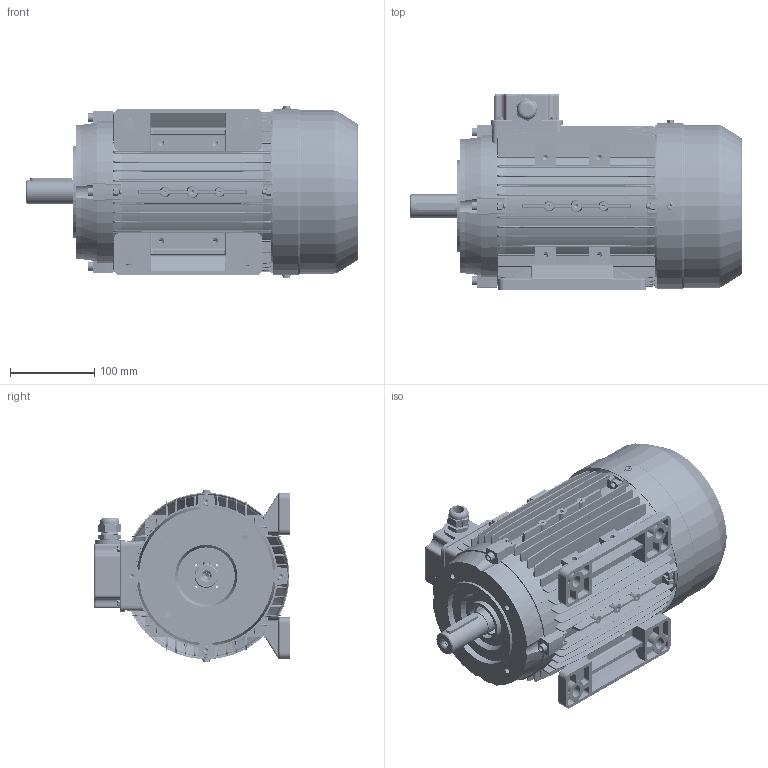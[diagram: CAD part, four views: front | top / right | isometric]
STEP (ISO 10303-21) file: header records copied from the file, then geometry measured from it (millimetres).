
FILE_DESCRIPTION (( 'STEP AP203' ), '1' );
FILE_NAME ('MSL100LX assembly B34.STEP', '2017-11-26T09:52:29', ( 'user' ), ( 'china' ), 'SwSTEP 2.0', 'SolidWorks 2016', '' );
FILE_SCHEMA (( 'CONFIG_CONTROL_DESIGN' ));
Length unit declared in the file: millimetre
Products named in the file (16): GB-T 70.1-2000 M6_34; MSL80-90堤盄碟_MSL80-90; M100瑞欶_101; M100傷裔_NonDriveEnd; M100菁褐; M100傷裔B14; GB-T 41-2000 M6; GB-T 29.2-1988 M5鞠褒坋趼湍菜_08; M100-Shaft drive end; GB-T 5780-2000 M6_035; GB-T 29.2-1988 M4鞠褒坋趼湍菜_05; M20 cable gland; M100儂褲_M100L; MS100 綴裔瑞欶郪磁_101; MSL100LX assembly B34; MSL80-90堤盄碟蚾饜
Assembly tree (34 placements, depth 3):
  MSL100LX assembly B34
    M100儂褲_M100L
    M100菁褐  x2
    M100-Shaft drive end
    MS100 綴裔瑞欶郪磁_101
      M100傷裔_NonDriveEnd
      M100瑞欶_101
      GB-T 29.2-1988 M5鞠褒坋趼湍菜_08  x3
    GB-T 41-2000 M6  x8
    GB-T 70.1-2000 M6_34  x4
    GB-T 5780-2000 M6_035  x4
    MSL80-90堤盄碟蚾饜
      MSL80-90堤盄碟_MSL80-90
      GB-T 29.2-1988 M4鞠褒坋趼湍菜_05  x4
      M20 cable gland
    M100傷裔B14
Bounding box: 395 x 234 x 205 mm (x, y, z)
Volume: 1607536.7 mm3; surface area: 948947.3 mm2
Topology: 32 solids, 32 shells, 5233 faces, 13491 edges, 8361 vertices
Faces by surface type: plane 1984, cylinder 1456, cone 1068, bspline 560, torus 153, sphere 12
Entity records: 151557 total; most frequent: CARTESIAN_POINT 62406, ORIENTED_EDGE 19324, DIRECTION 16474, EDGE_CURVE 9662, VERTEX_POINT 6147, AXIS2_PLACEMENT_3D 5675, LINE 5124, VECTOR 5124
